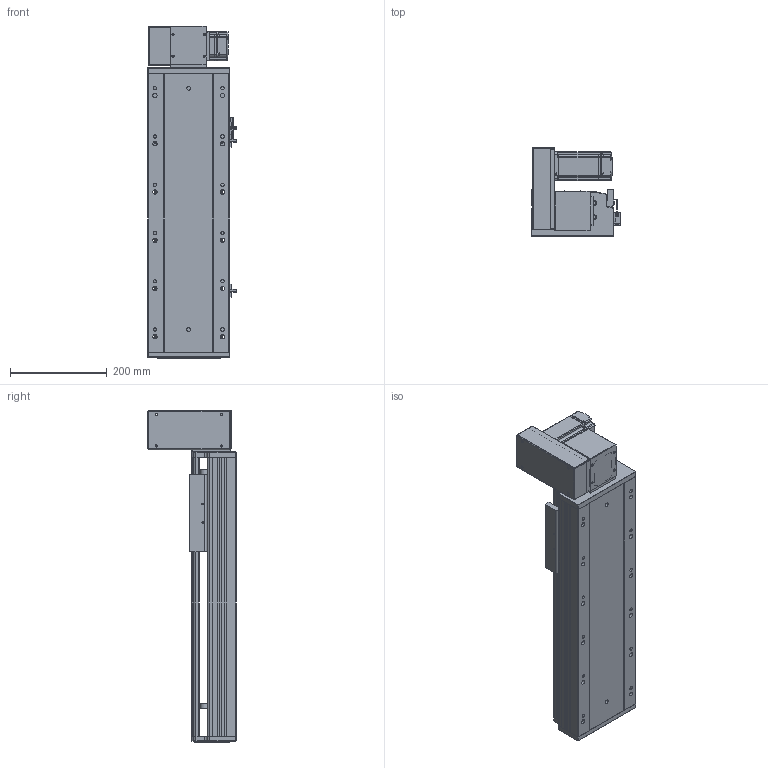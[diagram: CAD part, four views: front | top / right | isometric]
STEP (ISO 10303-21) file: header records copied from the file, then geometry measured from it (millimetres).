
FILE_DESCRIPTION (( 'STEP AP203' ), '1' );
FILE_NAME ('RY170-T-300-UL-P400W.SLDASM_300.step', '2021-03-02T02:11:42', ( '盈信电脑' ), ( '东莞市道滘镇水果街19号' ), 'SwSTEP 2.0', 'SolidWorks 2012', '' );
FILE_SCHEMA (( 'CONFIG_CONTROL_DESIGN' ));
Products named in the file (18): RY170-T-300-UL-P400W.SLDASM_300; RY170-T蹟翐M4; 15; RY170同步轮电机安装板(400W); RY120-T主同步轮轴承压盖; RY170肮祭謫萇儂欶; RY170-T肮祭湍揤踡輸2; RY170-T肮祭謫裔啣; RY170-T肮祭湍揤踡輸1; 滅袉蝶18-10; RY170翋肮祭謫釱; RY170肮祭謫ヶ裔啣; RY170-T-300肮祭謫倰第裔啣-DL; 覜茼ん672; RY170外置感应片(200共用）; RY170綴裔啣; RY170-T-300肮祭謫倰第菁釱-DL; RY170肮祭湍臏賑輸
Assembly tree (22 placements, depth 2):
  RY170-T-300-UL-P400W.SLDASM_300
    RY170-T-300肮祭謫倰第菁釱-DL
    RY170肮祭湍臏賑輸
    RY170-T-300肮祭謫倰第裔啣-DL
    RY170綴裔啣
    覜茼ん672  x3
    RY170外置感应片(200共用）
    RY170肮祭謫ヶ裔啣
    RY170翋肮祭謫釱
    RY170-T肮祭湍揤踡輸1  x2
    RY170-T肮祭湍揤踡輸2  x2
    RY170-T肮祭謫裔啣
    滅袉蝶18-10  x2
    RY120-T主同步轮轴承压盖
    RY170肮祭謫萇儂欶
    RY170同步轮电机安装板(400W)
    RY170-T蹟翐M4
    15
Bounding box: 183.7 x 184 x 688 mm (x, y, z)
Volume: 3990853.5 mm3; surface area: 1312660.3 mm2
Topology: 22 solids, 22 shells, 2620 faces, 7246 edges, 4679 vertices
Faces by surface type: plane 1258, cylinder 1140, cone 192, bspline 30
Entity records: 77384 total; most frequent: CARTESIAN_POINT 16919, ORIENTED_EDGE 12288, DIRECTION 12116, EDGE_CURVE 6144, AXIS2_PLACEMENT_3D 4226, VERTEX_POINT 4035, LINE 3664, VECTOR 3664
